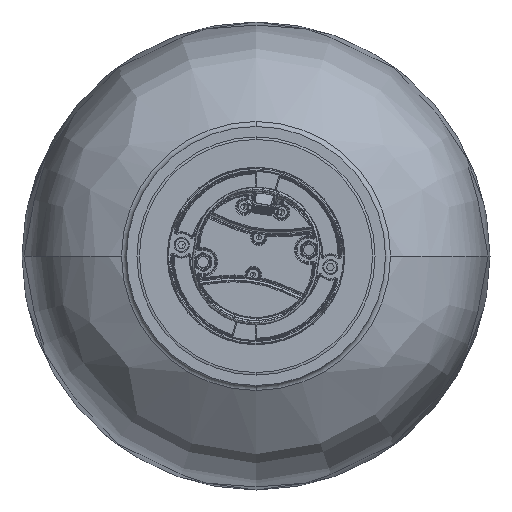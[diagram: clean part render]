
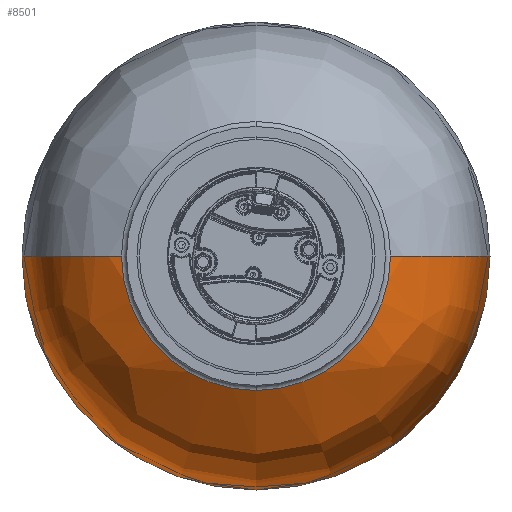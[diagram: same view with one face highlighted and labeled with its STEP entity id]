
A CAD part, front view. The second image highlights one B-rep face of the part: STEP entity #8501.
In plain terms, the highlighted free-form (B-spline) face has degree [3, 3] with [9, 4] control points.
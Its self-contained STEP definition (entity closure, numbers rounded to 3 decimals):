
#730 = CARTESIAN_POINT ( 'NONE',  ( 90.011, -384.265, 0. ) ) ;
#1363 = DIRECTION ( 'NONE',  ( 0., 1., 0. ) ) ;
#1981 = CARTESIAN_POINT ( 'NONE',  ( -90.011, -384.265, 0. ) ) ;
#2204 = CARTESIAN_POINT ( 'NONE',  ( 103.29, -365.262, 0. ) ) ;
#4138 = CARTESIAN_POINT ( 'NONE',  ( 112., -196.127, 0. ) ) ;
#5251 = CARTESIAN_POINT ( 'NONE',  ( 111.919, -237.02, -223.839 ) ) ;
#6650 = CARTESIAN_POINT ( 'NONE',  ( 111.998, -198.169, 0. ) ) ;
#6934 = AXIS2_PLACEMENT_3D ( 'NONE', #54220, #59859, #19699 ) ;
#8501 = ADVANCED_FACE ( 'NONE', ( #42832 ), #62647, .F. ) ;
#9816 = CARTESIAN_POINT ( 'NONE',  ( -111.998, -198.169, -223.996 ) ) ;
#10925 = CARTESIAN_POINT ( 'NONE',  ( 75.683, -394.608, 0. ) ) ;
#11271 = VERTEX_POINT ( 'NONE', #26114 ) ;
#13519 = DIRECTION ( 'NONE',  ( 0., 1., 0. ) ) ;
#14244 = DIRECTION ( 'NONE',  ( 0., 0., 1. ) ) ;
#15433 = CARTESIAN_POINT ( 'NONE',  ( 64.353, -397.109, 0. ) ) ;
#16091 = CARTESIAN_POINT ( 'NONE',  ( 0., -397.109, -64.353 ) ) ;
#16174 = CARTESIAN_POINT ( 'NONE',  ( -75.683, -394.608, 0. ) ) ;
#16555 = EDGE_CURVE ( 'NONE', #67906, #22727, #35563, .T. ) ;
#16557 = CARTESIAN_POINT ( 'NONE',  ( 103.29, -365.262, -206.58 ) ) ;
#17964 = CARTESIAN_POINT ( 'NONE',  ( -64.353, -397.109, 0. ) ) ;
#18151 = CARTESIAN_POINT ( 'NONE',  ( -64.353, -397.109, 0. ) ) ;
#19240 = CARTESIAN_POINT ( 'NONE',  ( -111.998, -198.169, 0. ) ) ;
#19588 = CARTESIAN_POINT ( 'NONE',  ( -112., -196.127, 0. ) ) ;
#19699 = DIRECTION ( 'NONE',  ( 0., 0., 1. ) ) ;
#21054 = CARTESIAN_POINT ( 'NONE',  ( 112., -196.127, -224. ) ) ;
#21438 = CARTESIAN_POINT ( 'NONE',  ( 111.998, -198.169, -223.996 ) ) ;
#22727 = VERTEX_POINT ( 'NONE', #16091 ) ;
#23042 = VERTEX_POINT ( 'NONE', #72757 ) ;
#23727 = CARTESIAN_POINT ( 'NONE',  ( -111.919, -237.02, 0. ) ) ;
#24848 = CARTESIAN_POINT ( 'NONE',  ( -103.29, -365.262, 0. ) ) ;
#26114 = CARTESIAN_POINT ( 'NONE',  ( -112., -196.127, 0. ) ) ;
#26856 = EDGE_CURVE ( 'NONE', #46155, #11271, #27589, .T. ) ;
#27028 = CARTESIAN_POINT ( 'NONE',  ( -90.011, -384.265, -180.021 ) ) ;
#27402 = CARTESIAN_POINT ( 'NONE',  ( 110.862, -321.136, 0. ) ) ;
#27589 = B_SPLINE_CURVE_WITH_KNOTS ( 'NONE', 3,
 ( #18151, #53358, #1981, #24848, #54103, #47764, #23727, #19240, #19588 ),
 .UNSPECIFIED., .F., .F.,
 ( 4, 1, 1, 1, 1, 1, 4 ),
 ( 0.045, 0.28, 0.332, 0.526, 0.595, 0.978, 1. ),
 .UNSPECIFIED. ) ;
#27770 = CARTESIAN_POINT ( 'NONE',  ( 75.683, -394.608, -151.366 ) ) ;
#33049 = CARTESIAN_POINT ( 'NONE',  ( 90.011, -384.265, 0. ) ) ;
#33799 = CARTESIAN_POINT ( 'NONE',  ( -106.773, -352.09, 0. ) ) ;
#35563 = CIRCLE ( 'NONE', #6934, 64.353 ) ;
#36026 = CARTESIAN_POINT ( 'NONE',  ( 0., -397.109, 0. ) ) ;
#39057 = CARTESIAN_POINT ( 'NONE',  ( 106.773, -352.09, 0. ) ) ;
#39427 = CARTESIAN_POINT ( 'NONE',  ( -110.862, -321.136, -221.724 ) ) ;
#41618 = CARTESIAN_POINT ( 'NONE',  ( 106.773, -352.09, 0. ) ) ;
#42267 = ORIENTED_EDGE ( 'NONE', *, *, #26856, .T. ) ;
#42831 = B_SPLINE_CURVE_WITH_KNOTS ( 'NONE', 3,
 ( #57742, #59223, #730, #2204, #41618, #47992, #70984, #53217, #58848 ),
 .UNSPECIFIED., .F., .F.,
 ( 4, 1, 1, 1, 1, 1, 4 ),
 ( 0.045, 0.28, 0.332, 0.526, 0.595, 0.978, 1. ),
 .UNSPECIFIED. ) ;
#42832 = FACE_OUTER_BOUND ( 'NONE', #49197, .T. ) ;
#43724 = CIRCLE ( 'NONE', #65392, 64.353 ) ;
#44313 = CARTESIAN_POINT ( 'NONE',  ( -111.998, -198.169, 0. ) ) ;
#44685 = CARTESIAN_POINT ( 'NONE',  ( 110.862, -321.136, -221.724 ) ) ;
#45050 = CARTESIAN_POINT ( 'NONE',  ( 90.011, -384.265, -180.021 ) ) ;
#45666 = ORIENTED_EDGE ( 'NONE', *, *, #53046, .T. ) ;
#46155 = VERTEX_POINT ( 'NONE', #58992 ) ;
#46436 = AXIS2_PLACEMENT_3D ( 'NONE', #52737, #1363, #69044 ) ;
#47764 = CARTESIAN_POINT ( 'NONE',  ( -110.862, -321.136, 0. ) ) ;
#47992 = CARTESIAN_POINT ( 'NONE',  ( 110.862, -321.136, 0. ) ) ;
#49197 = EDGE_LOOP ( 'NONE', ( #45666, #42267, #64160, #53581, #70539 ) ) ;
#50328 = CARTESIAN_POINT ( 'NONE',  ( -112., -196.127, -224. ) ) ;
#52737 = CARTESIAN_POINT ( 'NONE',  ( 0., -196.127, 0. ) ) ;
#53046 = EDGE_CURVE ( 'NONE', #22727, #46155, #43724, .T. ) ;
#53217 = CARTESIAN_POINT ( 'NONE',  ( 111.998, -198.169, 0. ) ) ;
#53358 = CARTESIAN_POINT ( 'NONE',  ( -75.683, -394.608, 0. ) ) ;
#53581 = ORIENTED_EDGE ( 'NONE', *, *, #68367, .F. ) ;
#54103 = CARTESIAN_POINT ( 'NONE',  ( -106.773, -352.09, 0. ) ) ;
#54220 = CARTESIAN_POINT ( 'NONE',  ( 0., -397.109, 0. ) ) ;
#55566 = CARTESIAN_POINT ( 'NONE',  ( -111.919, -237.02, -223.839 ) ) ;
#55937 = CARTESIAN_POINT ( 'NONE',  ( 64.353, -397.109, -128.706 ) ) ;
#56692 = CARTESIAN_POINT ( 'NONE',  ( -112., -196.127, 0. ) ) ;
#57239 = CIRCLE ( 'NONE', #46436, 112. ) ;
#57742 = CARTESIAN_POINT ( 'NONE',  ( 64.353, -397.109, 0. ) ) ;
#58075 = CARTESIAN_POINT ( 'NONE',  ( -111.919, -237.02, 0. ) ) ;
#58848 = CARTESIAN_POINT ( 'NONE',  ( 112., -196.127, 0. ) ) ;
#58992 = CARTESIAN_POINT ( 'NONE',  ( -64.353, -397.109, 0. ) ) ;
#59223 = CARTESIAN_POINT ( 'NONE',  ( 75.683, -394.608, 0. ) ) ;
#59859 = DIRECTION ( 'NONE',  ( 0., 1., 0. ) ) ;
#62365 = CARTESIAN_POINT ( 'NONE',  ( -110.862, -321.136, 0. ) ) ;
#62647 =( BOUNDED_SURFACE ( )  B_SPLINE_SURFACE ( 3, 3, ( 
 ( #15433, #55937, #73694, #17964 ),
 ( #10925, #27770, #74064, #16174 ),
 ( #33049, #45050, #27028, #63782 ),
 ( #67699, #16557, #72954, #68086 ),
 ( #39057, #73322, #69499, #33799 ),
 ( #27402, #44685, #39427, #62365 ),
 ( #72593, #5251, #55566, #58075 ),
 ( #6650, #21438, #9816, #44313 ),
 ( #4138, #21054, #50328, #56692 ) ),
 .UNSPECIFIED., .F., .F., .F. ) 
 B_SPLINE_SURFACE_WITH_KNOTS ( ( 4, 1, 1, 1, 1, 1, 4 ),
 ( 4, 4 ),
 ( 0.045, 0.28, 0.332, 0.526, 0.595, 0.978, 1. ),
 ( 0., 1. ),
 .UNSPECIFIED. ) 
 GEOMETRIC_REPRESENTATION_ITEM ( )  RATIONAL_B_SPLINE_SURFACE ( (
 ( 1., 0.333, 0.333, 1.),
 ( 1., 0.333, 0.333, 1.),
 ( 1., 0.333, 0.333, 1.),
 ( 1., 0.333, 0.333, 1.),
 ( 1., 0.333, 0.333, 1.),
 ( 1., 0.333, 0.333, 1.),
 ( 1., 0.333, 0.333, 1.),
 ( 1., 0.333, 0.333, 1.),
 ( 1., 0.333, 0.333, 1.) ) ) 
 REPRESENTATION_ITEM ( '' )  SURFACE ( )  );
#63782 = CARTESIAN_POINT ( 'NONE',  ( -90.011, -384.265, 0. ) ) ;
#64160 = ORIENTED_EDGE ( 'NONE', *, *, #67841, .F. ) ;
#65233 = CARTESIAN_POINT ( 'NONE',  ( 64.353, -397.109, 0. ) ) ;
#65392 = AXIS2_PLACEMENT_3D ( 'NONE', #36026, #13519, #14244 ) ;
#67699 = CARTESIAN_POINT ( 'NONE',  ( 103.29, -365.262, 0. ) ) ;
#67841 = EDGE_CURVE ( 'NONE', #23042, #11271, #57239, .T. ) ;
#67906 = VERTEX_POINT ( 'NONE', #65233 ) ;
#68086 = CARTESIAN_POINT ( 'NONE',  ( -103.29, -365.262, 0. ) ) ;
#68367 = EDGE_CURVE ( 'NONE', #67906, #23042, #42831, .T. ) ;
#69044 = DIRECTION ( 'NONE',  ( 0., 0., 1. ) ) ;
#69499 = CARTESIAN_POINT ( 'NONE',  ( -106.773, -352.09, -213.547 ) ) ;
#70539 = ORIENTED_EDGE ( 'NONE', *, *, #16555, .T. ) ;
#70984 = CARTESIAN_POINT ( 'NONE',  ( 111.919, -237.02, 0. ) ) ;
#72593 = CARTESIAN_POINT ( 'NONE',  ( 111.919, -237.02, 0. ) ) ;
#72757 = CARTESIAN_POINT ( 'NONE',  ( 112., -196.127, 0. ) ) ;
#72954 = CARTESIAN_POINT ( 'NONE',  ( -103.29, -365.262, -206.58 ) ) ;
#73322 = CARTESIAN_POINT ( 'NONE',  ( 106.773, -352.09, -213.547 ) ) ;
#73694 = CARTESIAN_POINT ( 'NONE',  ( -64.353, -397.109, -128.706 ) ) ;
#74064 = CARTESIAN_POINT ( 'NONE',  ( -75.683, -394.608, -151.366 ) ) ;
